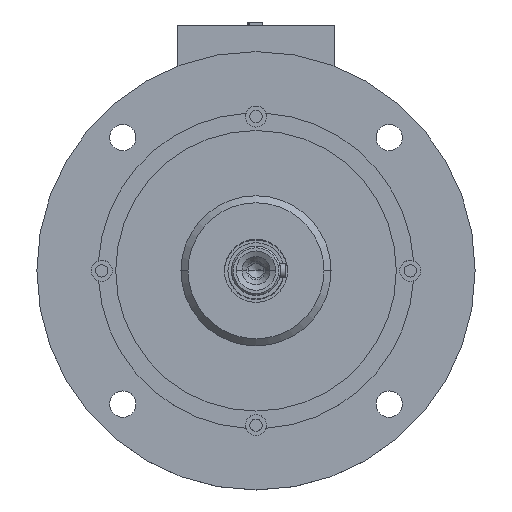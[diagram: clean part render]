
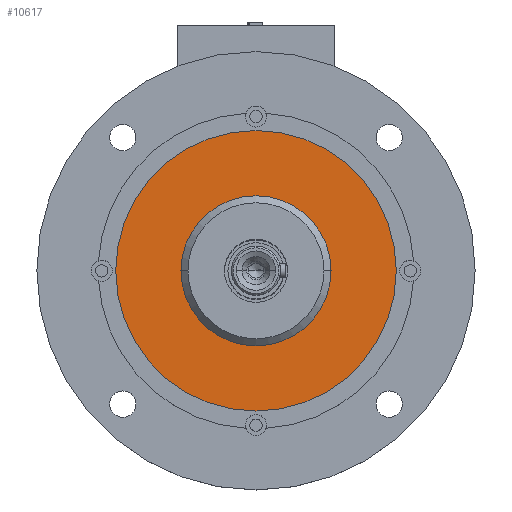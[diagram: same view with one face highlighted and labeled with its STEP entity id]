
A CAD part, top view. The second image highlights one B-rep face of the part: STEP entity #10617.
In plain terms, the highlighted planar face has unit normal (0, 0, 1).
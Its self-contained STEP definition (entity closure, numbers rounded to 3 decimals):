
#127 = ORIENTED_EDGE ( 'NONE', *, *, #7936, .F. ) ;
#142 = ORIENTED_EDGE ( 'NONE', *, *, #3028, .F. ) ;
#149 = DIRECTION ( 'NONE',  ( -1., 0., 0. ) ) ;
#1185 = DIRECTION ( 'NONE',  ( 0., 0., -1. ) ) ;
#1411 = DIRECTION ( 'NONE',  ( 1., 0., 0. ) ) ;
#1488 = AXIS2_PLACEMENT_3D ( 'NONE', #8276, #11578, #4896 ) ;
#1745 = EDGE_CURVE ( 'NONE', #3257, #3385, #9069, .T. ) ;
#2075 = ORIENTED_EDGE ( 'NONE', *, *, #1745, .T. ) ;
#2718 = AXIS2_PLACEMENT_3D ( 'NONE', #4260, #12358, #149 ) ;
#3028 = EDGE_CURVE ( 'NONE', #6715, #13196, #8492, .T. ) ;
#3257 = VERTEX_POINT ( 'NONE', #8583 ) ;
#3385 = VERTEX_POINT ( 'NONE', #7358 ) ;
#3582 = CARTESIAN_POINT ( 'NONE',  ( -80., 0., 127. ) ) ;
#4260 = CARTESIAN_POINT ( 'NONE',  ( 0., 0., 127. ) ) ;
#4397 = EDGE_CURVE ( 'NONE', #3385, #3257, #11031, .T. ) ;
#4473 = DIRECTION ( 'NONE',  ( -1., 0., 0. ) ) ;
#4710 = DIRECTION ( 'NONE',  ( 0., 0., -1. ) ) ;
#4896 = DIRECTION ( 'NONE',  ( 1., 0., 0. ) ) ;
#5074 = AXIS2_PLACEMENT_3D ( 'NONE', #6309, #8570, #13033 ) ;
#6309 = CARTESIAN_POINT ( 'NONE',  ( 0., 82.5, 127. ) ) ;
#6715 = VERTEX_POINT ( 'NONE', #3582 ) ;
#7358 = CARTESIAN_POINT ( 'NONE',  ( -42.8, 0., 127. ) ) ;
#7936 = EDGE_CURVE ( 'NONE', #13196, #6715, #8763, .T. ) ;
#8276 = CARTESIAN_POINT ( 'NONE',  ( 0., 0., 127. ) ) ;
#8303 = FACE_BOUND ( 'NONE', #8989, .T. ) ;
#8478 = FACE_OUTER_BOUND ( 'NONE', #9780, .T. ) ;
#8492 = CIRCLE ( 'NONE', #11173, 80. ) ;
#8570 = DIRECTION ( 'NONE',  ( 0., 0., 1. ) ) ;
#8583 = CARTESIAN_POINT ( 'NONE',  ( 42.8, 0., 127. ) ) ;
#8607 = PLANE ( 'NONE',  #5074 ) ;
#8763 = CIRCLE ( 'NONE', #1488, 80. ) ;
#8989 = EDGE_LOOP ( 'NONE', ( #12818, #2075 ) ) ;
#9069 = CIRCLE ( 'NONE', #10875, 42.8 ) ;
#9321 = CARTESIAN_POINT ( 'NONE',  ( 0., 0., 127. ) ) ;
#9780 = EDGE_LOOP ( 'NONE', ( #127, #142 ) ) ;
#10617 = ADVANCED_FACE ( 'NONE', ( #8303, #8478 ), #8607, .T. ) ;
#10875 = AXIS2_PLACEMENT_3D ( 'NONE', #12186, #1185, #4473 ) ;
#11031 = CIRCLE ( 'NONE', #2718, 42.8 ) ;
#11173 = AXIS2_PLACEMENT_3D ( 'NONE', #9321, #4710, #1411 ) ;
#11578 = DIRECTION ( 'NONE',  ( 0., 0., -1. ) ) ;
#12051 = CARTESIAN_POINT ( 'NONE',  ( 80., 0., 127. ) ) ;
#12186 = CARTESIAN_POINT ( 'NONE',  ( 0., 0., 127. ) ) ;
#12358 = DIRECTION ( 'NONE',  ( 0., 0., -1. ) ) ;
#12818 = ORIENTED_EDGE ( 'NONE', *, *, #4397, .T. ) ;
#13033 = DIRECTION ( 'NONE',  ( 1., 0., 0. ) ) ;
#13196 = VERTEX_POINT ( 'NONE', #12051 ) ;
